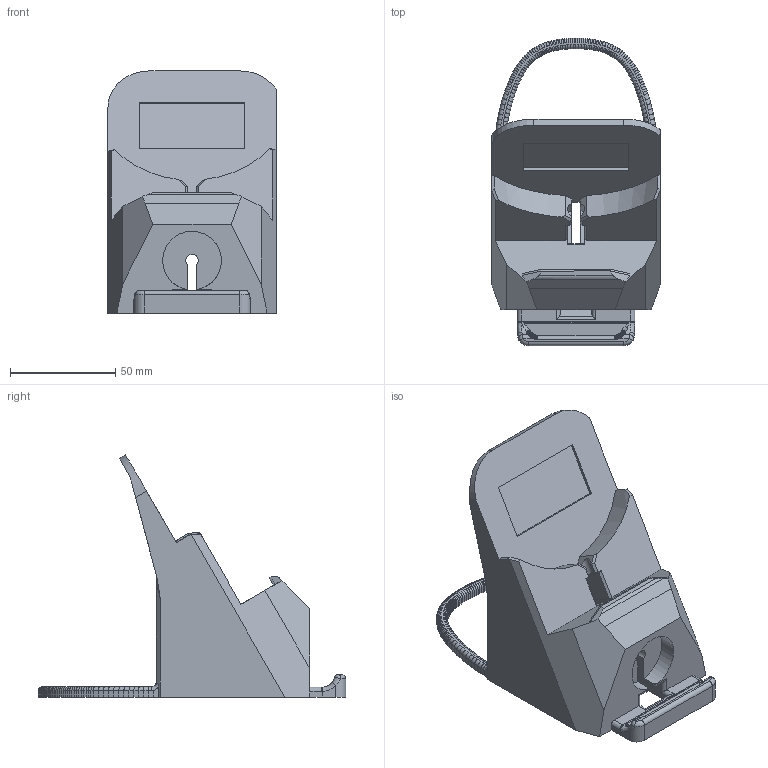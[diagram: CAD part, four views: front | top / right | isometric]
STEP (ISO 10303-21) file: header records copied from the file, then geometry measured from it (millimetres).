
FILE_DESCRIPTION(/* description */ (''),/* implementation_level */ '2;1');
FILE_NAME(/* name */ '/Users/aaronmaun/Desktop/Iphone Stand.step',/* time_stamp */ '2019-05-17T18:29:59-04:00',/* author */ ('AJMaun6945'),/* organization */ (''),/* preprocessor_version */ 'ST-DEVELOPER v18',/* originating_system */ 'Autodesk Translation Framework v8.2.0.1029',/* authorisation */ '');
FILE_SCHEMA (('AUTOMOTIVE_DESIGN { 1 0 10303 214 3 1 1 }'));
Length unit declared in the file: millimetre
Products named in the file (1): iphone
Bounding box: 80 x 146.26 x 115.28 mm (x, y, z)
Volume: 333580.4 mm3; surface area: 49714.1 mm2
Topology: 1 solids, 1 shells, 683 faces, 1923 edges, 1236 vertices
Faces by surface type: plane 367, cylinder 290, bspline 18, sphere 4, torus 4
Entity records: 24736 total; most frequent: CARTESIAN_POINT 7098, ORIENTED_EDGE 3842, DIRECTION 3522, EDGE_CURVE 1921, LINE 1326, VECTOR 1326, VERTEX_POINT 1236, AXIS2_PLACEMENT_3D 1098
